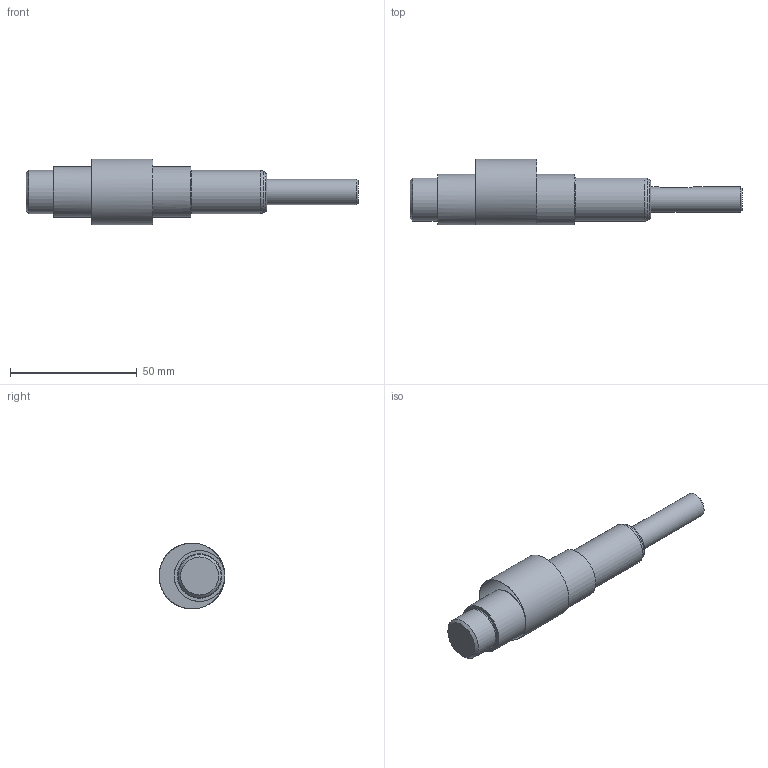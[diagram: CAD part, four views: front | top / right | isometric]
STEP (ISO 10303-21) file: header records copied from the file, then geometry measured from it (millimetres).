
FILE_DESCRIPTION(/* description */ (''),/* implementation_level */ '2;1');
FILE_NAME(/* name */ '',/* time_stamp */ '2026-05-29T16:23:57+09:00',/* author */ ('jhkim'),/* organization */ (''),/* preprocessor_version */ 'ST-DEVELOPER v20.1',/* originating_system */ 'Autodesk Inventor 2027',/* authorisation */ '');
FILE_SCHEMA (('AUTOMOTIVE_DESIGN { 1 0 10303 214 3 1 1 }'));
Length unit declared in the file: millimetre
Products named in the file (1): 캠 축
Bounding box: 131 x 26 x 26 mm (x, y, z)
Volume: 34150.8 mm3; surface area: 8169.9 mm2
Topology: 1 solids, 1 shells, 25 faces, 56 edges, 36 vertices
Faces by surface type: plane 10, cylinder 8, torus 4, cone 3
Full cylindrical faces by diameter (mm): 10 x1, 17 x2, 20 x2, 26 x1
Entity records: 783 total; most frequent: CARTESIAN_POINT 154, DIRECTION 138, ORIENTED_EDGE 112, AXIS2_PLACEMENT_3D 60, EDGE_CURVE 56, VERTEX_POINT 36, CIRCLE 34, EDGE_LOOP 28
